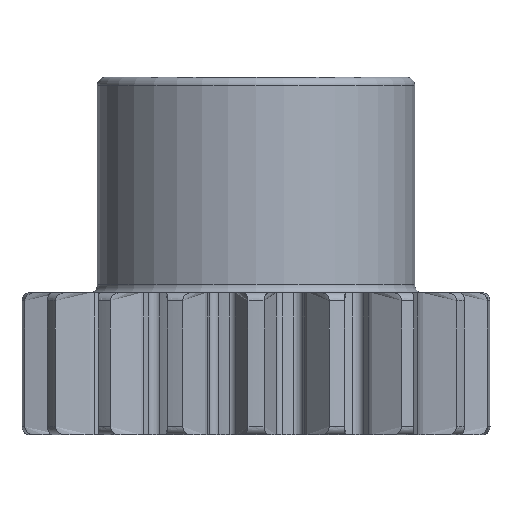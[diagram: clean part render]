
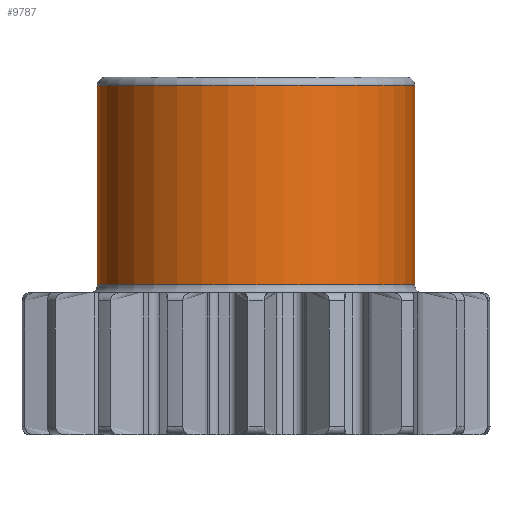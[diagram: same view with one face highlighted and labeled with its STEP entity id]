
A CAD part, front view. The second image highlights one B-rep face of the part: STEP entity #9787.
In plain terms, the highlighted cylindrical face has radius 3.556 mm (diameter 7.112 mm), a partial arc.
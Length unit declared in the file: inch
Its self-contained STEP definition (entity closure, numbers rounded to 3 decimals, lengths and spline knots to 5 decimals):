
#50 = VERTEX_POINT ( 'NONE', #1465 ) ;
#238 = DIRECTION ( 'NONE',  ( 1., 0., 0. ) ) ;
#401 = FACE_OUTER_BOUND ( 'NONE', #7762, .T. ) ;
#552 = ORIENTED_EDGE ( 'NONE', *, *, #4339, .T. ) ;
#709 = CARTESIAN_POINT ( 'NONE',  ( 0.14, 0., -0.02551 ) ) ;
#1260 = CYLINDRICAL_SURFACE ( 'NONE', #9134, 0.14 ) ;
#1316 = LINE ( 'NONE', #4449, #1406 ) ;
#1321 = CIRCLE ( 'NONE', #8354, 0.14 ) ;
#1402 = ORIENTED_EDGE ( 'NONE', *, *, #9265, .F. ) ;
#1406 = VECTOR ( 'NONE', #2013, 39.37008 ) ;
#1465 = CARTESIAN_POINT ( 'NONE',  ( -0.14, 0., -0.02551 ) ) ;
#1861 = AXIS2_PLACEMENT_3D ( 'NONE', #7609, #8568, #238 ) ;
#2013 = DIRECTION ( 'NONE',  ( 0., 0., 1. ) ) ;
#2147 = CARTESIAN_POINT ( 'NONE',  ( -0.14, 0., 0.15051 ) ) ;
#2351 = VECTOR ( 'NONE', #3025, 39.37008 ) ;
#3025 = DIRECTION ( 'NONE',  ( 0., 0., 1. ) ) ;
#3174 = VERTEX_POINT ( 'NONE', #7861 ) ;
#3231 = CIRCLE ( 'NONE', #1861, 0.14 ) ;
#4339 = EDGE_CURVE ( 'NONE', #50, #4445, #3231, .T. ) ;
#4445 = VERTEX_POINT ( 'NONE', #709 ) ;
#4449 = CARTESIAN_POINT ( 'NONE',  ( -0.14, 0., 0.1575 ) ) ;
#4542 = DIRECTION ( 'NONE',  ( 0., 0., 1. ) ) ;
#5240 = DIRECTION ( 'NONE',  ( 1., 0., 0. ) ) ;
#5382 = EDGE_CURVE ( 'NONE', #3174, #7555, #1321, .T. ) ;
#6054 = CARTESIAN_POINT ( 'NONE',  ( 0., 0., 0.1575 ) ) ;
#6113 = CARTESIAN_POINT ( 'NONE',  ( 0.14, 0., 0.1575 ) ) ;
#6369 = EDGE_CURVE ( 'NONE', #4445, #3174, #9528, .T. ) ;
#6689 = DIRECTION ( 'NONE',  ( 1., 0., 0. ) ) ;
#7181 = ORIENTED_EDGE ( 'NONE', *, *, #6369, .T. ) ;
#7382 = DIRECTION ( 'NONE',  ( 0., 0., -1. ) ) ;
#7555 = VERTEX_POINT ( 'NONE', #2147 ) ;
#7609 = CARTESIAN_POINT ( 'NONE',  ( 0., 0., -0.02551 ) ) ;
#7762 = EDGE_LOOP ( 'NONE', ( #1402, #552, #7181, #9111 ) ) ;
#7861 = CARTESIAN_POINT ( 'NONE',  ( 0.14, 0., 0.15051 ) ) ;
#8286 = CARTESIAN_POINT ( 'NONE',  ( 0., 0., 0.15051 ) ) ;
#8354 = AXIS2_PLACEMENT_3D ( 'NONE', #8286, #7382, #6689 ) ;
#8568 = DIRECTION ( 'NONE',  ( 0., 0., 1. ) ) ;
#9111 = ORIENTED_EDGE ( 'NONE', *, *, #5382, .T. ) ;
#9134 = AXIS2_PLACEMENT_3D ( 'NONE', #6054, #4542, #5240 ) ;
#9265 = EDGE_CURVE ( 'NONE', #50, #7555, #1316, .T. ) ;
#9528 = LINE ( 'NONE', #6113, #2351 ) ;
#9787 = ADVANCED_FACE ( 'NONE', ( #401 ), #1260, .T. ) ;
